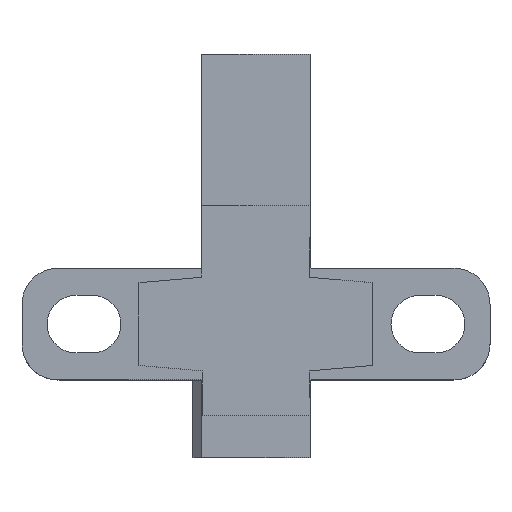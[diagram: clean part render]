
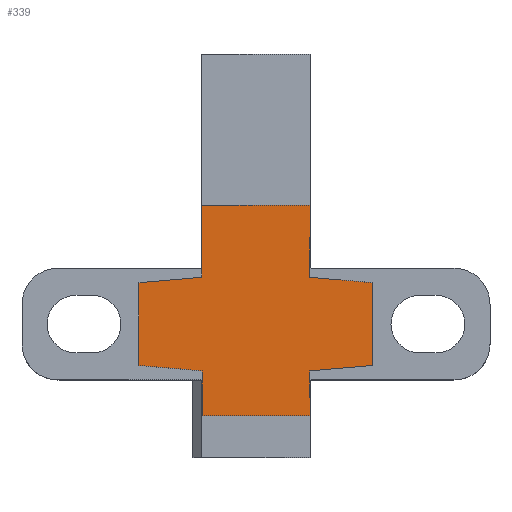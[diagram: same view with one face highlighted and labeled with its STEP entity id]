
A CAD part, top view. The second image highlights one B-rep face of the part: STEP entity #339.
In plain terms, the highlighted planar face has unit normal (0, 0, 1).
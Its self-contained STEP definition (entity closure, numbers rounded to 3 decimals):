
#144 = EDGE_LOOP ( 'NONE', ( #1465, #1466, #1467, #1468, #1469, #4170, #4171, #4172, #4173, #4174, #4175, #4176, #4177, #4178, #4179, #4180 ) ) ;
#209 = CARTESIAN_POINT ( 'NONE',  ( -3., -18.1, 12.7 ) ) ;
#216 = PLANE ( 'NONE',  #1671 ) ;
#221 = DIRECTION ( 'NONE',  ( 0., 0., 1. ) ) ;
#222 = DIRECTION ( 'NONE',  ( 1., 0., 0. ) ) ;
#339 = ADVANCED_FACE ( 'NONE', ( #1035 ), #216, .T. ) ;
#459 = VERTEX_POINT ( 'NONE', #3941 ) ;
#460 = VERTEX_POINT ( 'NONE', #3942 ) ;
#461 = VERTEX_POINT ( 'NONE', #3943 ) ;
#462 = VERTEX_POINT ( 'NONE', #3944 ) ;
#463 = VERTEX_POINT ( 'NONE', #3945 ) ;
#464 = VERTEX_POINT ( 'NONE', #3946 ) ;
#465 = VERTEX_POINT ( 'NONE', #3947 ) ;
#466 = VERTEX_POINT ( 'NONE', #3948 ) ;
#783 = EDGE_CURVE ( 'NONE', #891, #890, #4023, .T. ) ;
#876 = VERTEX_POINT ( 'NONE', #1851 ) ;
#877 = VERTEX_POINT ( 'NONE', #1844 ) ;
#890 = VERTEX_POINT ( 'NONE', #1861 ) ;
#891 = VERTEX_POINT ( 'NONE', #1862 ) ;
#952 = VERTEX_POINT ( 'NONE', #1923 ) ;
#953 = VERTEX_POINT ( 'NONE', #1924 ) ;
#1035 = FACE_OUTER_BOUND ( 'NONE', #144, .T. ) ;
#1068 = VERTEX_POINT ( 'NONE', #1947 ) ;
#1088 = VERTEX_POINT ( 'NONE', #1975 ) ;
#1465 = ORIENTED_EDGE ( 'NONE', *, *, #3556, .T. ) ;
#1466 = ORIENTED_EDGE ( 'NONE', *, *, #3812, .F. ) ;
#1467 = ORIENTED_EDGE ( 'NONE', *, *, #3813, .F. ) ;
#1468 = ORIENTED_EDGE ( 'NONE', *, *, #3819, .F. ) ;
#1469 = ORIENTED_EDGE ( 'NONE', *, *, #3818, .F. ) ;
#1671 = AXIS2_PLACEMENT_3D ( 'NONE', #209, #221, #222 ) ;
#1844 = CARTESIAN_POINT ( 'NONE',  ( -3., -6.4, 12.7 ) ) ;
#1846 = CARTESIAN_POINT ( 'NONE',  ( -3., -6.4, 12.7 ) ) ;
#1848 = DIRECTION ( 'NONE',  ( 0., -1., 0. ) ) ;
#1851 = CARTESIAN_POINT ( 'NONE',  ( -3., -9.9, 12.7 ) ) ;
#1861 = CARTESIAN_POINT ( 'NONE',  ( -3., -18.1, 12.7 ) ) ;
#1862 = CARTESIAN_POINT ( 'NONE',  ( -3., -16.1, 12.7 ) ) ;
#1923 = CARTESIAN_POINT ( 'NONE',  ( 3., -18.1, 12.7 ) ) ;
#1924 = CARTESIAN_POINT ( 'NONE',  ( 3., -6.4, 12.7 ) ) ;
#1947 = CARTESIAN_POINT ( 'NONE',  ( 3., -9.9, 12.7 ) ) ;
#1975 = CARTESIAN_POINT ( 'NONE',  ( 3., -16.1, 12.7 ) ) ;
#2297 = CARTESIAN_POINT ( 'NONE',  ( -3., -6.4, 12.7 ) ) ;
#2302 = DIRECTION ( 'NONE',  ( 0., -1., 0. ) ) ;
#2404 = LINE ( 'NONE', #2297, #2415 ) ;
#2415 = VECTOR ( 'NONE', #2302, 1000. ) ;
#2894 = CARTESIAN_POINT ( 'NONE',  ( 3., -6.4, 12.7 ) ) ;
#2895 = DIRECTION ( 'NONE',  ( 0., 1., 0. ) ) ;
#2902 = CARTESIAN_POINT ( 'NONE',  ( 3., -6.4, 12.7 ) ) ;
#2903 = DIRECTION ( 'NONE',  ( 0., 1., 0. ) ) ;
#2937 = LINE ( 'NONE', #2894, #2938 ) ;
#2938 = VECTOR ( 'NONE', #2895, 1000. ) ;
#2945 = LINE ( 'NONE', #2902, #2946 ) ;
#2946 = VECTOR ( 'NONE', #2903, 1000. ) ;
#3310 = LINE ( 'NONE', #3471, #3311 ) ;
#3311 = VECTOR ( 'NONE', #3472, 1000. ) ;
#3314 = LINE ( 'NONE', #3475, #3315 ) ;
#3315 = VECTOR ( 'NONE', #3476, 1000. ) ;
#3316 = LINE ( 'NONE', #3477, #3317 ) ;
#3317 = VECTOR ( 'NONE', #3478, 1000. ) ;
#3326 = LINE ( 'NONE', #3487, #3327 ) ;
#3327 = VECTOR ( 'NONE', #3488, 1000. ) ;
#3328 = LINE ( 'NONE', #3489, #3329 ) ;
#3329 = VECTOR ( 'NONE', #3490, 1000. ) ;
#3330 = LINE ( 'NONE', #3491, #3331 ) ;
#3331 = VECTOR ( 'NONE', #3492, 1000. ) ;
#3332 = LINE ( 'NONE', #3493, #3333 ) ;
#3333 = VECTOR ( 'NONE', #3494, 1000. ) ;
#3336 = LINE ( 'NONE', #3497, #3337 ) ;
#3337 = VECTOR ( 'NONE', #3498, 1000. ) ;
#3340 = LINE ( 'NONE', #3501, #3341 ) ;
#3341 = VECTOR ( 'NONE', #3502, 1000. ) ;
#3342 = LINE ( 'NONE', #3503, #3343 ) ;
#3343 = VECTOR ( 'NONE', #3504, 1000. ) ;
#3346 = LINE ( 'NONE', #3507, #3347 ) ;
#3347 = VECTOR ( 'NONE', #3508, 1000. ) ;
#3352 = LINE ( 'NONE', #3513, #3353 ) ;
#3353 = VECTOR ( 'NONE', #3514, 1000. ) ;
#3471 = CARTESIAN_POINT ( 'NONE',  ( -3., -18.1, 12.7 ) ) ;
#3472 = DIRECTION ( 'NONE',  ( 1., 0., 0. ) ) ;
#3475 = CARTESIAN_POINT ( 'NONE',  ( -3., -9.9, 12.7 ) ) ;
#3476 = DIRECTION ( 'NONE',  ( 0., 1., 0. ) ) ;
#3477 = CARTESIAN_POINT ( 'NONE',  ( -3., -10.4, 12.7 ) ) ;
#3478 = DIRECTION ( 'NONE',  ( 0.996, 0.085, 0. ) ) ;
#3487 = CARTESIAN_POINT ( 'NONE',  ( -6.5, -15.3, 12.7 ) ) ;
#3488 = DIRECTION ( 'NONE',  ( -0.996, 0.085, 0. ) ) ;
#3489 = CARTESIAN_POINT ( 'NONE',  ( -6.5, -10.7, 12.7 ) ) ;
#3490 = DIRECTION ( 'NONE',  ( 0., 1., 0. ) ) ;
#3491 = CARTESIAN_POINT ( 'NONE',  ( -3., -15.6, 12.7 ) ) ;
#3492 = DIRECTION ( 'NONE',  ( 0., 1., 0. ) ) ;
#3493 = CARTESIAN_POINT ( 'NONE',  ( 6.5, -15.3, 12.7 ) ) ;
#3494 = DIRECTION ( 'NONE',  ( 0., -1., 0. ) ) ;
#3497 = CARTESIAN_POINT ( 'NONE',  ( 3., -16.1, 12.7 ) ) ;
#3498 = DIRECTION ( 'NONE',  ( 0., -1., 0. ) ) ;
#3501 = CARTESIAN_POINT ( 'NONE',  ( 6.5, -10.7, 12.7 ) ) ;
#3502 = DIRECTION ( 'NONE',  ( 0.996, -0.085, 0. ) ) ;
#3503 = CARTESIAN_POINT ( 'NONE',  ( 3., -15.6, 12.7 ) ) ;
#3504 = DIRECTION ( 'NONE',  ( -0.996, -0.085, 0. ) ) ;
#3507 = CARTESIAN_POINT ( 'NONE',  ( 3., -10.4, 12.7 ) ) ;
#3508 = DIRECTION ( 'NONE',  ( 0., -1., 0. ) ) ;
#3513 = CARTESIAN_POINT ( 'NONE',  ( -3., -6.4, 12.7 ) ) ;
#3514 = DIRECTION ( 'NONE',  ( -1., 0., 0. ) ) ;
#3556 = EDGE_CURVE ( 'NONE', #877, #876, #2404, .T. ) ;
#3684 = EDGE_CURVE ( 'NONE', #952, #1088, #2937, .T. ) ;
#3688 = EDGE_CURVE ( 'NONE', #1068, #953, #2945, .T. ) ;
#3810 = EDGE_CURVE ( 'NONE', #890, #952, #3310, .T. ) ;
#3812 = EDGE_CURVE ( 'NONE', #459, #876, #3314, .T. ) ;
#3813 = EDGE_CURVE ( 'NONE', #460, #459, #3316, .T. ) ;
#3818 = EDGE_CURVE ( 'NONE', #462, #461, #3326, .T. ) ;
#3819 = EDGE_CURVE ( 'NONE', #461, #460, #3328, .T. ) ;
#3820 = EDGE_CURVE ( 'NONE', #891, #462, #3330, .T. ) ;
#3821 = EDGE_CURVE ( 'NONE', #465, #464, #3332, .T. ) ;
#3823 = EDGE_CURVE ( 'NONE', #463, #1088, #3336, .T. ) ;
#3825 = EDGE_CURVE ( 'NONE', #466, #465, #3340, .T. ) ;
#3826 = EDGE_CURVE ( 'NONE', #464, #463, #3342, .T. ) ;
#3828 = EDGE_CURVE ( 'NONE', #1068, #466, #3346, .T. ) ;
#3831 = EDGE_CURVE ( 'NONE', #953, #877, #3352, .T. ) ;
#3941 = CARTESIAN_POINT ( 'NONE',  ( -3., -10.4, 12.7 ) ) ;
#3942 = CARTESIAN_POINT ( 'NONE',  ( -6.5, -10.7, 12.7 ) ) ;
#3943 = CARTESIAN_POINT ( 'NONE',  ( -6.5, -15.3, 12.7 ) ) ;
#3944 = CARTESIAN_POINT ( 'NONE',  ( -3., -15.6, 12.7 ) ) ;
#3945 = CARTESIAN_POINT ( 'NONE',  ( 3., -15.6, 12.7 ) ) ;
#3946 = CARTESIAN_POINT ( 'NONE',  ( 6.5, -15.3, 12.7 ) ) ;
#3947 = CARTESIAN_POINT ( 'NONE',  ( 6.5, -10.7, 12.7 ) ) ;
#3948 = CARTESIAN_POINT ( 'NONE',  ( 3., -10.4, 12.7 ) ) ;
#4023 = LINE ( 'NONE', #1846, #4026 ) ;
#4026 = VECTOR ( 'NONE', #1848, 1000. ) ;
#4170 = ORIENTED_EDGE ( 'NONE', *, *, #3820, .F. ) ;
#4171 = ORIENTED_EDGE ( 'NONE', *, *, #783, .T. ) ;
#4172 = ORIENTED_EDGE ( 'NONE', *, *, #3810, .T. ) ;
#4173 = ORIENTED_EDGE ( 'NONE', *, *, #3684, .T. ) ;
#4174 = ORIENTED_EDGE ( 'NONE', *, *, #3823, .F. ) ;
#4175 = ORIENTED_EDGE ( 'NONE', *, *, #3826, .F. ) ;
#4176 = ORIENTED_EDGE ( 'NONE', *, *, #3821, .F. ) ;
#4177 = ORIENTED_EDGE ( 'NONE', *, *, #3825, .F. ) ;
#4178 = ORIENTED_EDGE ( 'NONE', *, *, #3828, .F. ) ;
#4179 = ORIENTED_EDGE ( 'NONE', *, *, #3688, .T. ) ;
#4180 = ORIENTED_EDGE ( 'NONE', *, *, #3831, .T. ) ;
